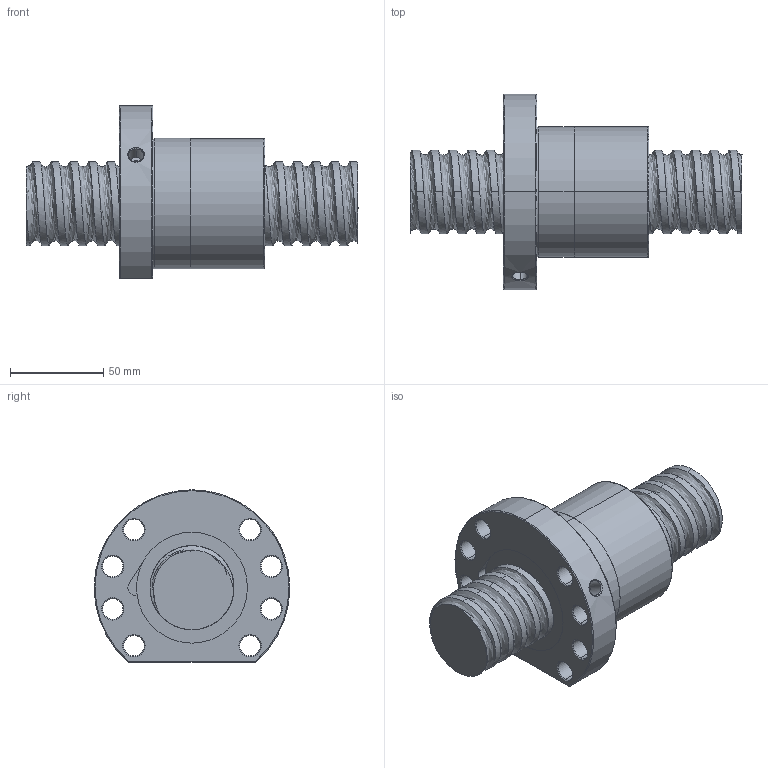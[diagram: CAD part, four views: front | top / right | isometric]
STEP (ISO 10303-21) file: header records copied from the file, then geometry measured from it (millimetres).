
FILE_DESCRIPTION (( 'STEP AP214' ), '1' );
FILE_NAME ('FSDC04510T5-F-B.STEP', '2010-06-25T13:00:27', ( 'XPAUTO' ), ( 'XPAUTO' ), 'SwSTEP 2.0', 'SolidWorks 2007', '' );
FILE_SCHEMA (( 'AUTOMOTIVE_DESIGN' ));
Length unit declared in the file: millimetre
Products named in the file (3): FSDC04510T5-F-B.sldasm-Part-1_預設; FSDC04510T5-F-B; FSDC04510T5-F-B.sldasm-Part-2_預設
Assembly tree (2 placements, depth 2):
  FSDC04510T5-F-B
    FSDC04510T5-F-B.sldasm-Part-2_預設
    FSDC04510T5-F-B.sldasm-Part-1_預設
Bounding box: 178 x 105 x 92.5 mm (x, y, z)
Volume: 491264.3 mm3; surface area: 80414.8 mm2
Topology: 2 solids, 2 shells, 139 faces, 346 edges, 216 vertices
Faces by surface type: cylinder 78, cone 32, plane 19, bspline 5, torus 5
Entity records: 27044 total; most frequent: CARTESIAN_POINT 23725, ORIENTED_EDGE 692, DIRECTION 650, EDGE_CURVE 346, AXIS2_PLACEMENT_3D 264, VERTEX_POINT 216, EDGE_LOOP 164, ADVANCED_FACE 139
